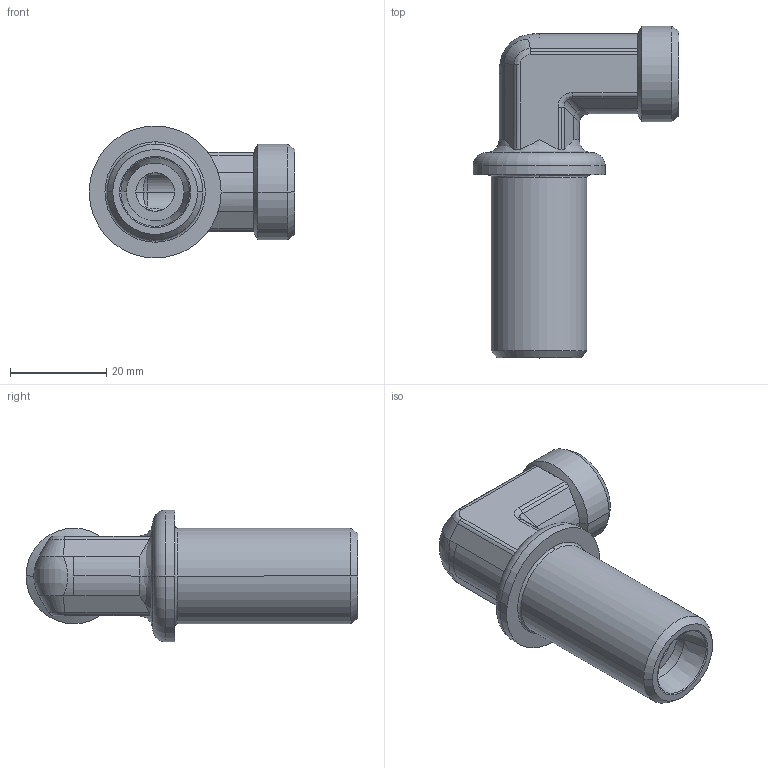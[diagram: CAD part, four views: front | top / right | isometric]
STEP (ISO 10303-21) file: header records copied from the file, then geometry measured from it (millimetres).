
FILE_DESCRIPTION((''),'2;1');
FILE_NAME('103717.stp','2007-10-31T11:46:07',(''),(''),'AutoCAD STEP 2000i','AutoCAD 2000i',', , ');
FILE_SCHEMA(('CONFIG_CONTROL_DESIGN'));
Length unit declared in the file: millimetre
Products named in the file (2): 103717.0; 3092#0
Assembly tree (1 placements, depth 2):
  103717.0
    3092#0
Bounding box: 42.7 x 68.92 x 27.4 mm (x, y, z)
Volume: 19696.8 mm3; surface area: 8576 mm2
Topology: 1 solids, 1 shells, 107 faces, 247 edges, 145 vertices
Faces by surface type: cylinder 46, plane 23, cone 18, bspline 16, torus 4
Entity records: 4079 total; most frequent: CARTESIAN_POINT 1569, DIRECTION 530, ORIENTED_EDGE 494, EDGE_CURVE 247, AXIS2_PLACEMENT_3D 224, VERTEX_POINT 145, CIRCLE 113, EDGE_LOOP 112
